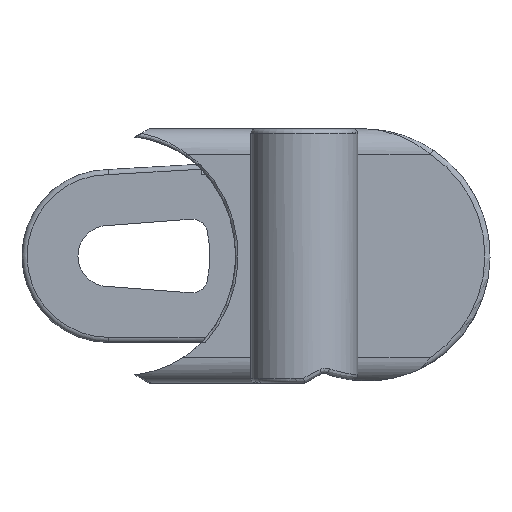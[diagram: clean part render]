
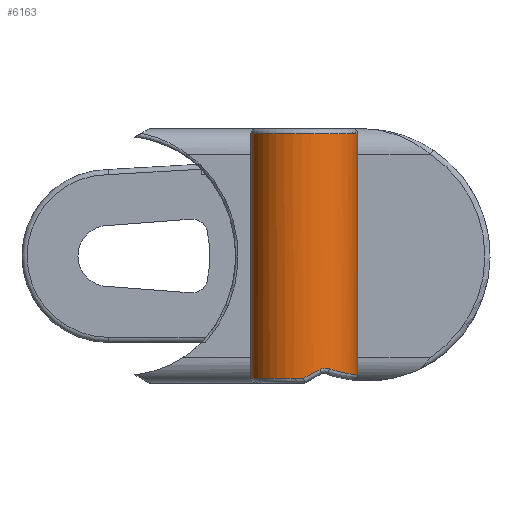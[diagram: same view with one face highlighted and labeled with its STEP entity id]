
A CAD part, left-side view. The second image highlights one B-rep face of the part: STEP entity #6163.
In plain terms, the highlighted cylindrical face has radius 10.5 mm (diameter 21 mm), a partial arc.
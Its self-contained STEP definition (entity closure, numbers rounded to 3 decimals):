
#5348=CARTESIAN_POINT('',(-11.761,22.933,2.84));
#5349=VERTEX_POINT('',#5348);
#5380=CARTESIAN_POINT('',(-1.789,17.406,1.624));
#5381=VERTEX_POINT('',#5380);
#5397=CARTESIAN_POINT('',(-1.789,17.406,1.624));
#5398=CARTESIAN_POINT('',(-2.59,17.351,1.618));
#5399=CARTESIAN_POINT('',(-3.392,17.389,1.622));
#5400=CARTESIAN_POINT('',(-4.186,17.518,1.637));
#5401=CARTESIAN_POINT('',(-4.863,17.628,1.65));
#5402=CARTESIAN_POINT('',(-5.53,17.805,1.672));
#5403=CARTESIAN_POINT('',(-6.168,18.043,1.705));
#5404=CARTESIAN_POINT('',(-6.761,18.264,1.735));
#5405=CARTESIAN_POINT('',(-7.338,18.541,1.776));
#5406=CARTESIAN_POINT('',(-7.884,18.867,1.831));
#5407=CARTESIAN_POINT('',(-8.453,19.207,1.889));
#5408=CARTESIAN_POINT('',(-8.986,19.599,1.961));
#5409=CARTESIAN_POINT('',(-9.474,20.033,2.054));
#5410=CARTESIAN_POINT('',(-10.221,20.696,2.195));
#5411=CARTESIAN_POINT('',(-10.874,21.472,2.387));
#5412=CARTESIAN_POINT('',(-11.393,22.299,2.639));
#5413=CARTESIAN_POINT('',(-11.524,22.508,2.702));
#5414=CARTESIAN_POINT('',(-11.647,22.719,2.77));
#5415=CARTESIAN_POINT('',(-11.761,22.933,2.84));
#5416=B_SPLINE_CURVE_WITH_KNOTS('',3,(#5397,#5398,#5399,#5400,#5401,#5402,#5403,#5404,#5405,#5406,#5407,#5408,#5409,#5410,#5411,#5412,#5413,#5414,#5415),.UNSPECIFIED.,.F.,.U.,(4,3,3,3,3,3,4),(5.894,6.111,6.296,6.468,6.647,6.921,6.99),.UNSPECIFIED.);
#5417=EDGE_CURVE('',#5381,#5349,#5416,.T.);
#5483=CARTESIAN_POINT('',(-12.537,24.798,2.694));
#5484=VERTEX_POINT('',#5483);
#5504=CARTESIAN_POINT('',(-11.761,22.933,2.84));
#5505=CARTESIAN_POINT('',(-11.849,23.099,2.895));
#5506=CARTESIAN_POINT('',(-12.026,23.453,2.97));
#5507=CARTESIAN_POINT('',(-12.303,24.095,2.962));
#5508=CARTESIAN_POINT('',(-12.461,24.549,2.824));
#5509=CARTESIAN_POINT('',(-12.537,24.798,2.694));
#5510=B_SPLINE_CURVE_WITH_KNOTS('',3,(#5504,#5505,#5506,#5507,#5508,#5509),.UNSPECIFIED.,.F.,.U.,(4,1,1,4),(0.,0.054,0.107,0.188),.UNSPECIFIED.);
#5511=EDGE_CURVE('',#5349,#5484,#5510,.T.);
#5557=CARTESIAN_POINT('',(-12.999,28.041,1.));
#5558=VERTEX_POINT('',#5557);
#5559=CARTESIAN_POINT('',(-2.5,27.882,1.083));
#5560=DIRECTION('',(0.,-0.463,-0.886));
#5561=DIRECTION('',(0.,-0.886,0.463));
#5562=AXIS2_PLACEMENT_3D('',#5559,#5560,#5561);
#5563=ELLIPSE('',#5562,11.846,10.5);
#5564=EDGE_CURVE('',#5484,#5558,#5563,.T.);
#5592=CARTESIAN_POINT('',(-2.5,38.382,1.));
#5593=VERTEX_POINT('',#5592);
#5603=CARTESIAN_POINT('',(-2.5,27.882,1.));
#5604=DIRECTION('',(0.,0.,-1.));
#5605=DIRECTION('',(-0.711,0.703,0.));
#5606=AXIS2_PLACEMENT_3D('',#5603,#5604,#5605);
#5607=CIRCLE('',#5606,10.5);
#5608=EDGE_CURVE('',#5558,#5593,#5607,.T.);
#5925=CARTESIAN_POINT('',(-1.789,17.406,49.));
#5926=VERTEX_POINT('',#5925);
#5942=CARTESIAN_POINT('',(-1.789,17.406,49.));
#5943=DIRECTION('',(0.0,0.0,-1.0));
#5944=VECTOR('',#5943,47.376);
#5945=LINE('',#5942,#5944);
#5946=EDGE_CURVE('',#5926,#5381,#5945,.T.);
#5958=CARTESIAN_POINT('',(-2.5,38.382,49.));
#5959=VERTEX_POINT('',#5958);
#5967=CARTESIAN_POINT('',(-2.5,27.882,49.));
#5968=DIRECTION('',(0.,0.,1.));
#5969=DIRECTION('',(-0.999,-0.034,0.));
#5970=AXIS2_PLACEMENT_3D('',#5967,#5968,#5969);
#5971=CIRCLE('',#5970,10.5);
#5972=EDGE_CURVE('',#5959,#5926,#5971,.T.);
#6144=CARTESIAN_POINT('',(-2.5,27.882,50.));
#6145=DIRECTION('',(0.,0.0,-1.0));
#6146=DIRECTION('',(0.0,1.0,0.0));
#6147=AXIS2_PLACEMENT_3D('',#6144,#6145,#6146);
#6148=CYLINDRICAL_SURFACE('',#6147,10.5);
#6149=ORIENTED_EDGE('',*,*,#5417,.F.);
#6150=ORIENTED_EDGE('',*,*,#5946,.F.);
#6151=ORIENTED_EDGE('',*,*,#5972,.F.);
#6152=CARTESIAN_POINT('',(-2.5,38.382,1.));
#6153=DIRECTION('',(0.0,0.0,1.0));
#6154=VECTOR('',#6153,48.);
#6155=LINE('',#6152,#6154);
#6156=EDGE_CURVE('',#5593,#5959,#6155,.T.);
#6157=ORIENTED_EDGE('',*,*,#6156,.F.);
#6158=ORIENTED_EDGE('',*,*,#5608,.F.);
#6159=ORIENTED_EDGE('',*,*,#5564,.F.);
#6160=ORIENTED_EDGE('',*,*,#5511,.F.);
#6161=EDGE_LOOP('',(#6149,#6150,#6151,#6157,#6158,#6159,#6160));
#6162=FACE_OUTER_BOUND('',#6161,.T.);
#6163=ADVANCED_FACE('',(#6162),#6148,.T.);
